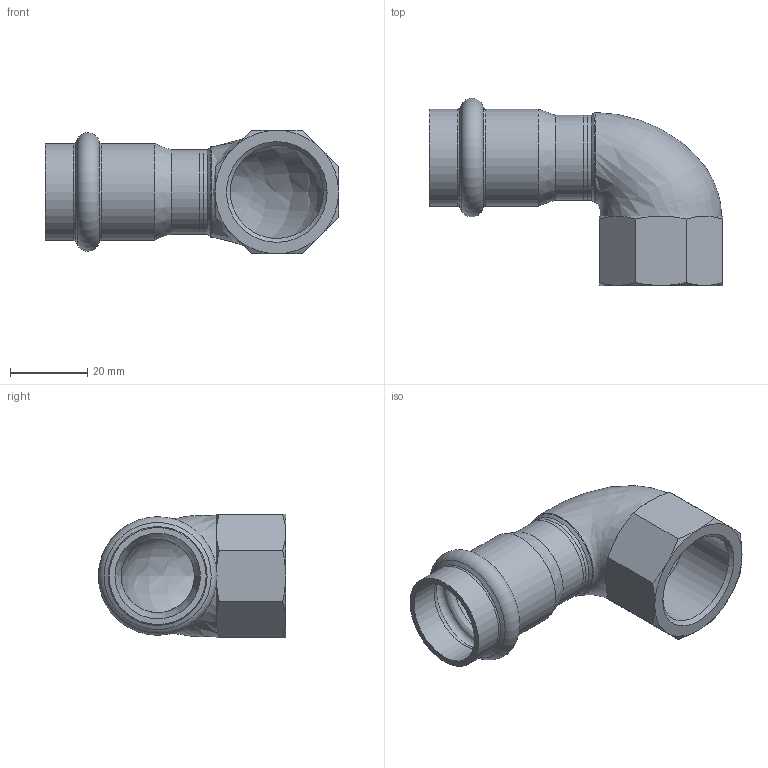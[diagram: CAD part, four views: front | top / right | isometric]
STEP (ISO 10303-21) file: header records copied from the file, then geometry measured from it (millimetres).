
FILE_DESCRIPTION((''),'2;1');
FILE_NAME('G:\Nirosan-Schmiedefeld\Technics\CAD\001 Serie 9.000\022\69090IG2234H(4).stp','2017-05-09T11:19:24',('herberg'),(''),'Autodesk Inventor 2009','Autodesk Inventor 2009','');
FILE_SCHEMA(('AUTOMOTIVE_DESIGN { 1 0 10303 214 1 1 1 1 }'));
Products named in the file (3): 69090IG2234H(4); 69ATWIG2234P(0); 69HM22P(1)
Assembly tree (2 placements, depth 2):
  69090IG2234H(4)
    69ATWIG2234P(0)
    69HM22P(1)
Bounding box: 76 x 48.59 x 32 mm (x, y, z)
Volume: 16468.2 mm3; surface area: 15066.1 mm2
Topology: 2 solids, 2 shells, 55 faces, 118 edges, 69 vertices
Faces by surface type: cone 22, plane 14, cylinder 10, bspline 7, torus 2
Full cylindrical faces by diameter (mm): 19 x2, 22 x2, 22.15 x2, 23.4 x1, 24.117 x1, 25.15 x2
Entity records: 1931 total; most frequent: CARTESIAN_POINT 839, DIRECTION 216, ORIENTED_EDGE 184, AXIS2_PLACEMENT_3D 104, EDGE_CURVE 92, EDGE_LOOP 84, VERTEX_POINT 66, FACE_OUTER_BOUND 55
